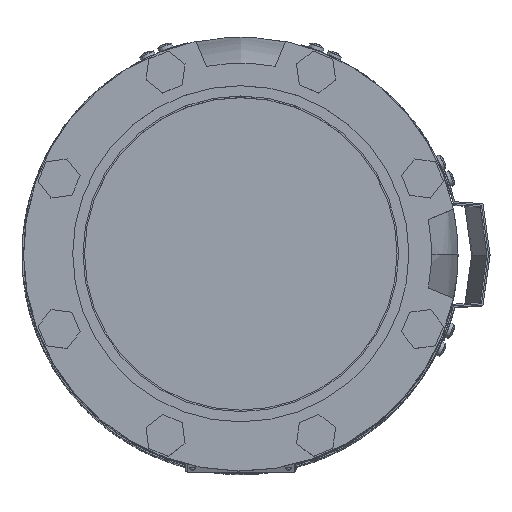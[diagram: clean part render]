
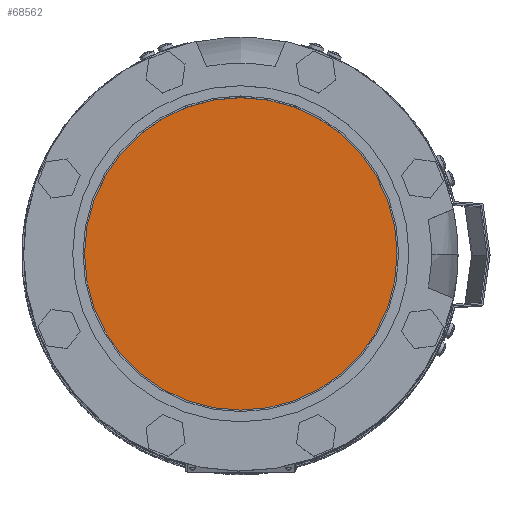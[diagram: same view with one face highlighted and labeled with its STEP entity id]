
A CAD part, top view. The second image highlights one B-rep face of the part: STEP entity #68562.
In plain terms, the highlighted planar face has unit normal (0, 0, 1) as drawn and (0, 1, 0) by its records, which use the part's own axes.
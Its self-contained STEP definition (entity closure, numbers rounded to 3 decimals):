
#629=CIRCLE('',#72734,102.5);
#630=CIRCLE('',#72735,102.5);
#16698=ORIENTED_EDGE('',*,*,#37490,.F.);
#16699=ORIENTED_EDGE('',*,*,#37491,.T.);
#37490=EDGE_CURVE('',#47886,#47887,#629,.T.);
#37491=EDGE_CURVE('',#47886,#47887,#630,.T.);
#47886=VERTEX_POINT('',#99418);
#47887=VERTEX_POINT('',#99419);
#55590=EDGE_LOOP('',(#16698,#16699));
#60541=FACE_BOUND('',#55590,.T.);
#65491=PLANE('',#72733);
#68562=ADVANCED_FACE('',(#60541),#65491,.T.);
#72733=AXIS2_PLACEMENT_3D('',#99416,#79462,#79463);
#72734=AXIS2_PLACEMENT_3D('',#99417,#79464,#79465);
#72735=AXIS2_PLACEMENT_3D('',#99420,#79466,#79467);
#79462=DIRECTION('',(0.,1.,0.));
#79463=DIRECTION('',(-1.,0.,0.));
#79464=DIRECTION('',(0.,-1.,0.));
#79465=DIRECTION('',(-1.,0.,0.));
#79466=DIRECTION('',(0.,1.,0.));
#79467=DIRECTION('',(-1.,0.,0.));
#99416=CARTESIAN_POINT('',(-109.56,216.5,0.));
#99417=CARTESIAN_POINT('',(0.,216.5,0.));
#99418=CARTESIAN_POINT('',(-102.5,216.5,0.));
#99419=CARTESIAN_POINT('',(102.5,216.5,0.));
#99420=CARTESIAN_POINT('',(0.,216.5,0.));
